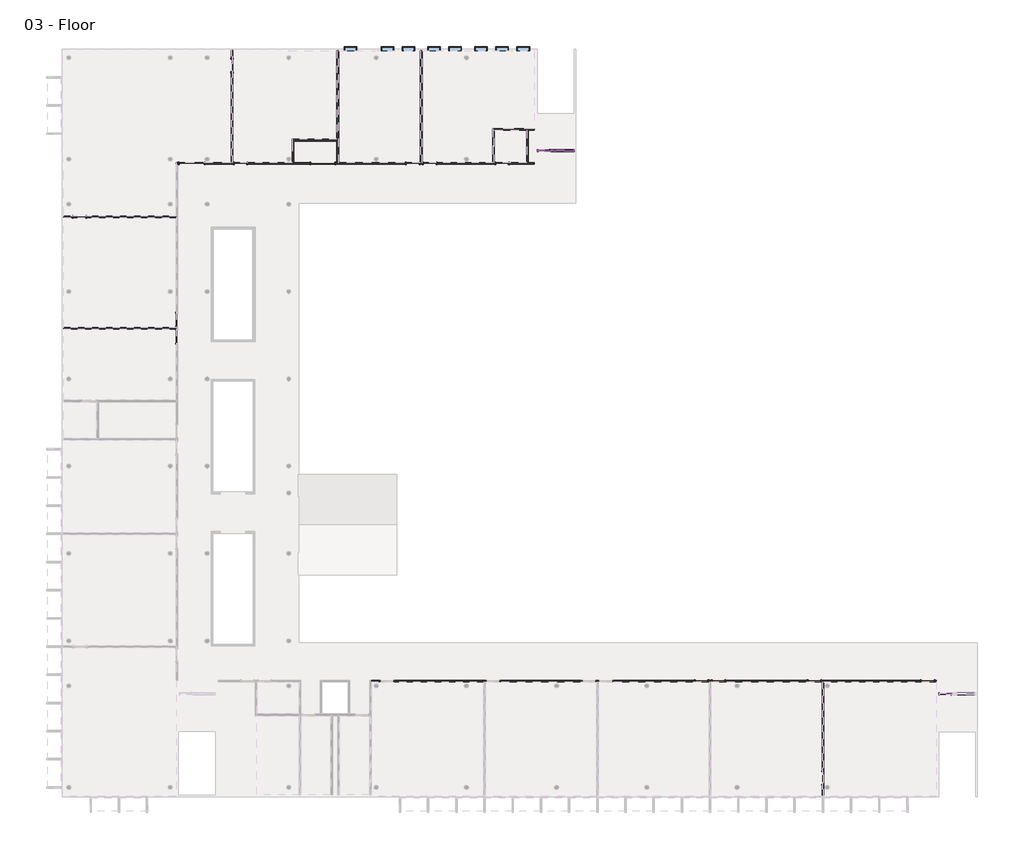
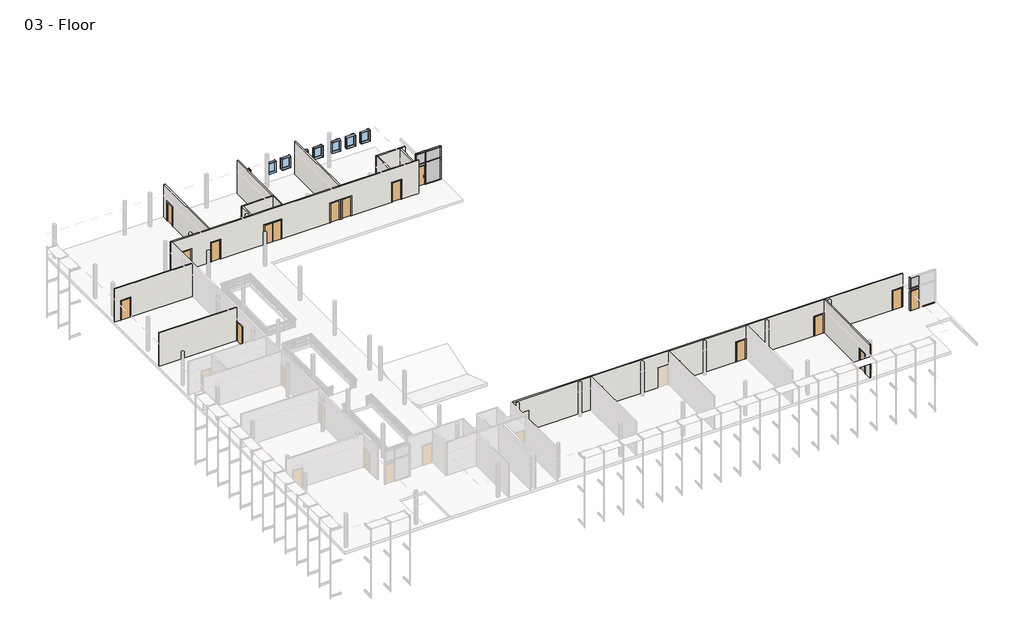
# One storey, part 2 of 4: 22 members, 17 doors, 13 walls, 8 windows, 6 plates.
"""IFC4 building model written with IfcOpenShell, lengths in millimetres."""

from ifc_helpers import new_model, si_unit, frame, origin, place, context, project, spatial, polyline, outline, extrude, faceted_brep, transform, mapped, element, save
from components import curtain_wall_sgl_glass_curtain_wall_sgl_glass_c2d4b377, curtain_wall_sgl_glass_curtain_wall_sgl_glass_ab2568d1, door_63ee19b0, door_3e29e47a, door_305aa2a5, door_e5f9f3c4, member_2b49869a, member_75074519, member_6186cc23, member_5d67b9fc, member_a50b3cda, member_c327c56d, member_410c6227, member_73c23c35, member_bcb6a316, member_d3323a85, member_7bd2cd2c, member_6be37683, member_e7b2e991, system_panel_glazed_8dc8626f, system_panel_glazed_bb2f95a6, system_panel_glazed_2e5f6ce9, system_panel_glazed_639f3d85, system_panel_glazed_72fe8651, system_panel_glazed_1925881f, window_dfee3f32

model = new_model("IFC4")

# Units and contexts
model_context = context("Model", 3, world=origin())
ifc_project = project(units=[si_unit("LENGTHUNIT", "METRE", prefix="MILLI")], contexts=[model_context])

# Site, building, storey
site = spatial("IfcSite", under=ifc_project)
building = spatial("IfcBuilding", under=site)
storey = spatial("IfcBuildingStorey", under=building, Name="03 - Floor", Elevation=7315.2)

# Doors
placement = place(None, origin())
curtain_wall_sgl_glass_curtain_wall_sgl_glass_shape = curtain_wall_sgl_glass_curtain_wall_sgl_glass_c2d4b377(model_context)
element("IfcDoor", 1, ObjectType="Curtain Wall Sgl Glass : Curtain Wall Sgl Glass", at=placement, inside=storey, context=model_context, shape_type="MappedRepresentation", body=[
    mapped(curtain_wall_sgl_glass_curtain_wall_sgl_glass_shape, transform((34925.9207476, 46523.2, 7315.2), x_axis=(-1.0, 0.0, 0.0), y_axis=(0.0, -1.0, 0.0), z_axis=(0.0, 0.0, 1.0))),
])
curtain_wall_sgl_glass_curtain_wall_sgl_glass_2_shape = curtain_wall_sgl_glass_curtain_wall_sgl_glass_ab2568d1(model_context)
element("IfcDoor", 2, ObjectType="Curtain Wall Sgl Glass : Curtain Wall Sgl Glass", at=placement, inside=storey, context=model_context, shape_type="MappedRepresentation", body=[
    mapped(curtain_wall_sgl_glass_curtain_wall_sgl_glass_2_shape, transform((63869.2207476, 7356.4, 7315.2), x_axis=(-1.0, 0.0, 0.0), y_axis=(0.0, -1.0, 0.0), z_axis=(0.0, 0.0, 1.0))),
])
door_shape = door_63ee19b0(model_context)
element("IfcDoor", 3, ObjectType="Double-Flush : 68\" x 84\"", at=placement, inside=storey, context=model_context, shape_type="MappedRepresentation", body=[
    mapped(door_shape, transform((18949.3207476, 45602.45, 7315.2), x_axis=(1.0, 0.0, 0.0), y_axis=(0.0, 1.0, 0.0), z_axis=(0.0, 0.0, 1.0))),
])
door_2_shape = door_3e29e47a(model_context)
element("IfcDoor", 4, ObjectType="Double-Flush : 72\" x 84\"", at=placement, inside=storey, context=model_context, shape_type="MappedRepresentation", body=[
    mapped(door_2_shape, transform((9487.8207476, 45602.45, 7315.2), x_axis=(1.0, 0.0, 0.0), y_axis=(0.0, 1.0, 0.0), z_axis=(0.0, 0.0, 1.0))),
])
door_3_shape = door_305aa2a5(model_context)
element("IfcDoor", 5, ObjectType="Single-Flush : 36\" x 84\"", at=placement, inside=storey, context=model_context, shape_type="MappedRepresentation", body=[
    mapped(door_3_shape, transform((31865.2207476, 45602.45, 7315.2), x_axis=(-1.0, 0.0, 0.0), y_axis=(0.0, -1.0, 0.0), z_axis=(0.0, 0.0, 1.0))),
])
element("IfcDoor", 6, ObjectType="Single-Flush : 36\" x 84\"", at=placement, inside=storey, context=model_context, shape_type="MappedRepresentation", body=[
    mapped(door_3_shape, transform((26645.5207476, 45602.45, 7315.2), x_axis=(-1.0, 0.0, 0.0), y_axis=(0.0, -1.0, 0.0), z_axis=(0.0, 0.0, 1.0))),
])
element("IfcDoor", 7, ObjectType="Single-Flush : 36\" x 84\"", at=placement, inside=storey, context=model_context, shape_type="MappedRepresentation", body=[
    mapped(door_3_shape, transform((13005.7207476, 45602.45, 7315.2), x_axis=(-1.0, 0.0, 0.0), y_axis=(0.0, -1.0, 0.0), z_axis=(0.0, 0.0, 1.0))),
])
element("IfcDoor", 8, ObjectType="Single-Flush : 36\" x 84\"", at=placement, inside=storey, context=model_context, shape_type="MappedRepresentation", body=[
    mapped(door_3_shape, transform((8414.6707476, 34331.2, 7315.2), x_axis=(0.0, -1.0, 0.0), y_axis=(1.0, 0.0, 0.0), z_axis=(0.0, 0.0, 1.0))),
])
element("IfcDoor", 9, ObjectType="Single-Flush : 36\" x 84\"", at=placement, inside=storey, context=model_context, shape_type="MappedRepresentation", body=[
    mapped(door_3_shape, transform((12396.1207476, 52657.3, 7315.2), x_axis=(0.0, 1.0, 0.0), y_axis=(-1.0, 0.0, 0.0), z_axis=(0.0, 0.0, 1.0))),
])
element("IfcDoor", 10, ObjectType="Single-Flush : 36\" x 84\"", at=placement, inside=storey, context=model_context, shape_type="MappedRepresentation", body=[
    mapped(door_3_shape, transform((46241.6207476, 8277.15, 7315.2), x_axis=(1.0, 0.0, 0.0), y_axis=(0.0, 1.0, 0.0), z_axis=(0.0, 0.0, 1.0))),
])
element("IfcDoor", 11, ObjectType="Single-Flush : 36\" x 84\"", at=placement, inside=storey, context=model_context, shape_type="MappedRepresentation", body=[
    mapped(door_3_shape, transform((54369.6207476, 8277.15, 7315.2), x_axis=(1.0, 0.0, 0.0), y_axis=(0.0, 1.0, 0.0), z_axis=(0.0, 0.0, 1.0))),
])
element("IfcDoor", 12, ObjectType="Single-Flush : 36\" x 84\"", at=placement, inside=storey, context=model_context, shape_type="MappedRepresentation", body=[
    mapped(door_3_shape, transform((62535.7207476, 8277.15, 7315.2), x_axis=(1.0, 0.0, 0.0), y_axis=(0.0, 1.0, 0.0), z_axis=(0.0, 0.0, 1.0))),
])
door_4_shape = door_e5f9f3c4(model_context)
element("IfcDoor", 13, ObjectType="Single-Flush : 36\" x 84\"", at=placement, inside=storey, context=model_context, shape_type="MappedRepresentation", body=[
    mapped(door_4_shape, transform((25426.3207476, 45602.45, 7315.2), x_axis=(1.0, 0.0, 0.0), y_axis=(0.0, 1.0, 0.0), z_axis=(0.0, 0.0, 1.0))),
])
element("IfcDoor", 14, ObjectType="Single-Flush : 36\" x 84\"", at=placement, inside=storey, context=model_context, shape_type="MappedRepresentation", body=[
    mapped(door_4_shape, transform((1397.9207476, 41748.0, 7315.2), x_axis=(-1.0, 0.0, 0.0), y_axis=(0.0, -1.0, 0.0), z_axis=(0.0, 0.0, 1.0))),
])
element("IfcDoor", 15, ObjectType="Single-Flush : 36\" x 84\"", at=placement, inside=storey, context=model_context, shape_type="MappedRepresentation", body=[
    mapped(door_4_shape, transform((8414.6707476, 33112.0, 7315.2), x_axis=(0.0, 1.0, 0.0), y_axis=(-1.0, 0.0, 0.0), z_axis=(0.0, 0.0, 1.0))),
])
element("IfcDoor", 16, ObjectType="Single-Flush : 36\" x 84\"", at=placement, inside=storey, context=model_context, shape_type="MappedRepresentation", body=[
    mapped(door_4_shape, transform((47460.8207476, 8277.15, 7315.2), x_axis=(-1.0, 0.0, 0.0), y_axis=(0.0, -1.0, 0.0), z_axis=(0.0, 0.0, 1.0))),
])
element("IfcDoor", 17, ObjectType="Single-Flush : 36\" x 84\"", at=placement, inside=storey, context=model_context, shape_type="MappedRepresentation", body=[
    mapped(door_4_shape, transform((54979.2207476, 1273.1, 7315.2), x_axis=(0.0, -1.0, 0.0), y_axis=(1.0, 0.0, 0.0), z_axis=(0.0, 0.0, 1.0))),
])

# Members
member_shape = member_2b49869a(model_context)
element("IfcMember", 18, ObjectType="Rectangular Mullion : 2.5\" x 5\" rectangular", at=placement, inside=storey, context=model_context, shape_type="MappedRepresentation", body=[
    mapped(member_shape, transform((35414.8707476, 46523.2, 9753.6), x_axis=(1.0, 0.0, 0.0), y_axis=(0.0, -1.0, 0.0), z_axis=(0.0, 0.0, -1.0))),
])
member_2_shape = member_75074519(model_context)
element("IfcMember", 19, ObjectType="Rectangular Mullion : 2.5\" x 5\" rectangular", at=placement, inside=storey, context=model_context, shape_type="MappedRepresentation", body=[
    mapped(member_2_shape, transform((34405.2207476, 46523.2, 10972.8), x_axis=(-1.0, 0.0, 0.0), y_axis=(0.0, -1.0, 0.0), z_axis=(0.0, 0.0, 1.0))),
])
element("IfcMember", 20, ObjectType="Rectangular Mullion : 2.5\" x 5\" rectangular", at=placement, inside=storey, context=model_context, shape_type="MappedRepresentation", body=[
    mapped(member_2_shape, transform((37046.8207476, 46523.2, 9753.6), x_axis=(1.0, 0.0, 0.0), y_axis=(0.0, -1.0, 0.0), z_axis=(0.0, 0.0, -1.0))),
])
element("IfcMember", 21, ObjectType="Rectangular Mullion : 2.5\" x 5\" rectangular", at=placement, inside=storey, context=model_context, shape_type="MappedRepresentation", body=[
    mapped(member_2_shape, transform((63348.5207476, 7356.4, 10972.8), x_axis=(-1.0, 0.0, 0.0), y_axis=(0.0, -1.0, 0.0), z_axis=(0.0, 0.0, 1.0))),
])
member_3_shape = member_6186cc23(model_context)
element("IfcMember", 22, ObjectType="Rectangular Mullion : 2.5\" x 5\" rectangular", at=placement, inside=storey, context=model_context, shape_type="MappedRepresentation", body=[
    mapped(member_3_shape, transform((35414.8707476, 46523.2, 7315.2), x_axis=(1.0, 0.0, 0.0), y_axis=(0.0, -1.0, 0.0), z_axis=(0.0, 0.0, -1.0))),
])
member_4_shape = member_5d67b9fc(model_context)
element("IfcMember", 23, ObjectType="Rectangular Mullion : 2.5\" x 5\" rectangular", at=placement, inside=storey, context=model_context, shape_type="MappedRepresentation", body=[
    mapped(member_4_shape, transform((35414.8707476, 46523.2, 9480.55), x_axis=(1.0, 0.0, 0.0), y_axis=(0.0, -1.0, 0.0), z_axis=(0.0, 0.0, -1.0))),
])
member_5_shape = member_a50b3cda(model_context)
element("IfcMember", 24, ObjectType="Rectangular Mullion : 2.5\" x 5\" rectangular", at=placement, inside=storey, context=model_context, shape_type="MappedRepresentation", body=[
    mapped(member_5_shape, transform((37046.8207476, 46523.2, 7315.2), x_axis=(1.0, 0.0, 0.0), y_axis=(0.0, -1.0, 0.0), z_axis=(0.0, 0.0, -1.0))),
])
member_6_shape = member_c327c56d(model_context)
element("IfcMember", 25, ObjectType="Rectangular Mullion : 2.5\" x 5\" rectangular", at=placement, inside=storey, context=model_context, shape_type="MappedRepresentation", body=[
    mapped(member_6_shape, transform((37046.8207476, 46523.2, 9480.55), x_axis=(1.0, 0.0, 0.0), y_axis=(0.0, -1.0, 0.0), z_axis=(0.0, 0.0, -1.0))),
])
member_7_shape = member_410c6227(model_context)
element("IfcMember", 26, ObjectType="Rectangular Mullion : 2.5\" x 5\" rectangular", at=placement, inside=storey, context=model_context, shape_type="MappedRepresentation", body=[
    mapped(member_7_shape, transform((35383.1207476, 46523.2, 9753.6), x_axis=(0.0, 0.0, 1.0), y_axis=(0.0, -1.0, 0.0), z_axis=(1.0, 0.0, 0.0))),
])
element("IfcMember", 27, ObjectType="Rectangular Mullion : 2.5\" x 5\" rectangular", at=placement, inside=storey, context=model_context, shape_type="MappedRepresentation", body=[
    mapped(member_7_shape, transform((35383.1207476, 46523.2, 9480.55), x_axis=(0.0, 0.0, 1.0), y_axis=(0.0, -1.0, 0.0), z_axis=(1.0, 0.0, 0.0))),
])
member_8_shape = member_73c23c35(model_context)
element("IfcMember", 28, ObjectType="Rectangular Mullion : 2.5\" x 5\" rectangular", at=placement, inside=storey, context=model_context, shape_type="MappedRepresentation", body=[
    mapped(member_8_shape, transform((35383.1207476, 46523.2, 10972.8), x_axis=(0.0, 0.0, 1.0), y_axis=(0.0, -1.0, 0.0), z_axis=(1.0, 0.0, 0.0))),
])
element("IfcMember", 29, ObjectType="Rectangular Mullion : 2.5\" x 5\" rectangular", at=placement, inside=storey, context=model_context, shape_type="MappedRepresentation", body=[
    mapped(member_6_shape, transform((34405.2207476, 46523.2, 9753.6), x_axis=(-1.0, 0.0, 0.0), y_axis=(0.0, -1.0, 0.0), z_axis=(0.0, 0.0, 1.0))),
])
element("IfcMember", 30, ObjectType="Rectangular Mullion : 2.5\" x 5\" rectangular", at=placement, inside=storey, context=model_context, shape_type="MappedRepresentation", body=[
    mapped(member_5_shape, transform((34405.2207476, 46523.2, 9480.55), x_axis=(-1.0, 0.0, 0.0), y_axis=(0.0, -1.0, 0.0), z_axis=(0.0, 0.0, 1.0))),
])
member_9_shape = member_bcb6a316(model_context)
element("IfcMember", 31, ObjectType="Rectangular Mullion : 2.5\" x 5\" rectangular", at=placement, inside=storey, context=model_context, shape_type="MappedRepresentation", body=[
    mapped(member_9_shape, transform((35726.0207476, 46523.2, 7315.2), x_axis=(0.0, 0.0, -1.0), y_axis=(0.0, -1.0, 0.0), z_axis=(-1.0, 0.0, 0.0))),
])
member_10_shape = member_d3323a85(model_context)
element("IfcMember", 32, ObjectType="Rectangular Mullion : 2.5\" x 5\" rectangular", at=placement, inside=storey, context=model_context, shape_type="MappedRepresentation", body=[
    mapped(member_10_shape, transform((35446.6207476, 46523.2, 7315.2), x_axis=(0.0, 0.0, -1.0), y_axis=(0.0, -1.0, 0.0), z_axis=(-1.0, 0.0, 0.0))),
])
element("IfcMember", 33, ObjectType="Rectangular Mullion : 2.5\" x 5\" rectangular", at=placement, inside=storey, context=model_context, shape_type="MappedRepresentation", body=[
    mapped(member_9_shape, transform((36983.3207476, 46523.2, 10972.8), x_axis=(0.0, 0.0, 1.0), y_axis=(0.0, -1.0, 0.0), z_axis=(1.0, 0.0, 0.0))),
])
element("IfcMember", 34, ObjectType="Rectangular Mullion : 2.5\" x 5\" rectangular", at=placement, inside=storey, context=model_context, shape_type="MappedRepresentation", body=[
    mapped(member_10_shape, transform((35726.0207476, 46523.2, 10972.8), x_axis=(0.0, 0.0, 1.0), y_axis=(0.0, -1.0, 0.0), z_axis=(1.0, 0.0, 0.0))),
])
member_11_shape = member_7bd2cd2c(model_context)
element("IfcMember", 35, ObjectType="Rectangular Mullion : 2.5\" x 5\" rectangular", at=placement, inside=storey, context=model_context, shape_type="MappedRepresentation", body=[
    mapped(member_11_shape, transform((36983.3207476, 46523.2, 9753.6), x_axis=(0.0, 0.0, 1.0), y_axis=(0.0, -1.0, 0.0), z_axis=(1.0, 0.0, 0.0))),
])
member_12_shape = member_6be37683(model_context)
element("IfcMember", 36, ObjectType="Rectangular Mullion : 2.5\" x 5\" rectangular", at=placement, inside=storey, context=model_context, shape_type="MappedRepresentation", body=[
    mapped(member_12_shape, transform((35726.0207476, 46523.2, 9753.6), x_axis=(0.0, 0.0, 1.0), y_axis=(0.0, -1.0, 0.0), z_axis=(1.0, 0.0, 0.0))),
])
element("IfcMember", 37, ObjectType="Rectangular Mullion : 2.5\" x 5\" rectangular", at=placement, inside=storey, context=model_context, shape_type="MappedRepresentation", body=[
    mapped(member_6_shape, transform((63348.5207476, 7356.4, 9753.6), x_axis=(-1.0, 0.0, 0.0), y_axis=(0.0, -1.0, 0.0), z_axis=(0.0, 0.0, 1.0))),
])
element("IfcMember", 38, ObjectType="Rectangular Mullion : 2.5\" x 5\" rectangular", at=placement, inside=storey, context=model_context, shape_type="MappedRepresentation", body=[
    mapped(member_5_shape, transform((63348.5207476, 7356.4, 9480.55), x_axis=(-1.0, 0.0, 0.0), y_axis=(0.0, -1.0, 0.0), z_axis=(0.0, 0.0, 1.0))),
])
member_13_shape = member_e7b2e991(model_context)
element("IfcMember", 39, ObjectType="Rectangular Mullion : 2.5\" x 5\" rectangular", at=placement, inside=storey, context=model_context, shape_type="MappedRepresentation", body=[
    mapped(member_13_shape, transform((64675.6707476, 7356.4, 7315.2), x_axis=(0.0, 0.0, -1.0), y_axis=(0.0, -1.0, 0.0), z_axis=(-1.0, 0.0, 0.0))),
])

# Plates
system_panel_glazed_shape = system_panel_glazed_8dc8626f(model_context)
element("IfcPlate", 40, ObjectType="System Panel : Glazed", at=placement, inside=storey, context=model_context, shape_type="MappedRepresentation", body=[
    mapped(system_panel_glazed_shape, transform((34925.9207476, 46523.2, 9512.3), x_axis=(1.0, 0.0, 0.0), y_axis=(0.0, 1.0, 0.0), z_axis=(0.0, 0.0, 1.0))),
])
system_panel_glazed_2_shape = system_panel_glazed_bb2f95a6(model_context)
element("IfcPlate", 41, ObjectType="System Panel : Glazed", at=placement, inside=storey, context=model_context, shape_type="MappedRepresentation", body=[
    mapped(system_panel_glazed_2_shape, transform((36214.9707476, 46523.2, 7378.7), x_axis=(1.0, 0.0, 0.0), y_axis=(0.0, 1.0, 0.0), z_axis=(0.0, 0.0, 1.0))),
])
system_panel_glazed_3_shape = system_panel_glazed_2e5f6ce9(model_context)
element("IfcPlate", 42, ObjectType="System Panel : Glazed", at=placement, inside=storey, context=model_context, shape_type="MappedRepresentation", body=[
    mapped(system_panel_glazed_3_shape, transform((34925.9207476, 46523.2, 9785.35), x_axis=(1.0, 0.0, 0.0), y_axis=(0.0, 1.0, 0.0), z_axis=(0.0, 0.0, 1.0))),
])
system_panel_glazed_4_shape = system_panel_glazed_639f3d85(model_context)
element("IfcPlate", 43, ObjectType="System Panel : Glazed", at=placement, inside=storey, context=model_context, shape_type="MappedRepresentation", body=[
    mapped(system_panel_glazed_4_shape, transform((36214.9707476, 46523.2, 9785.35), x_axis=(1.0, 0.0, 0.0), y_axis=(0.0, 1.0, 0.0), z_axis=(0.0, 0.0, 1.0))),
])
system_panel_glazed_5_shape = system_panel_glazed_72fe8651(model_context)
element("IfcPlate", 44, ObjectType="System Panel : Glazed", at=placement, inside=storey, context=model_context, shape_type="MappedRepresentation", body=[
    mapped(system_panel_glazed_5_shape, transform((63869.2207476, 7356.4, 9512.3), x_axis=(1.0, 0.0, 0.0), y_axis=(0.0, 1.0, 0.0), z_axis=(0.0, 0.0, 1.0))),
])
system_panel_glazed_6_shape = system_panel_glazed_1925881f(model_context)
element("IfcPlate", 45, ObjectType="System Panel : Glazed", at=placement, inside=storey, context=model_context, shape_type="MappedRepresentation", body=[
    mapped(system_panel_glazed_6_shape, transform((63869.2207476, 7356.4, 9785.35), x_axis=(1.0, 0.0, 0.0), y_axis=(0.0, 1.0, 0.0), z_axis=(0.0, 0.0, 1.0))),
])

# Walls
element("IfcWall", 46, ObjectType="Typ. Partition Wall", at=placement, inside=storey, context=model_context, shape_type="Brep", body=[
    faceted_brep([(8357.5207476, 45659.6, 10972.8), (12338.9707476, 45659.6, 10972.8), (12453.2707476, 45659.6, 10972.8), (16720.4707476, 45659.6, 10972.8), (16834.7707476, 45659.6, 10972.8), (19958.9707476, 45659.6, 10972.8), (20073.2707476, 45659.6, 10972.8), (25978.7707476, 45659.6, 10972.8), (26093.0707476, 45659.6, 10972.8), (31198.4707476, 45659.6, 10972.8), (31312.7707476, 45659.6, 10972.8), (33636.8707476, 45659.6, 10972.8), (33751.1707476, 45659.6, 10972.8), (34194.0832476, 45659.6, 10972.8), (34194.0832476, 45659.6, 7315.2), (33751.1707476, 45659.6, 7315.2), (33636.8707476, 45659.6, 7315.2), (32322.4207476, 45659.6, 7315.2), (32322.4207476, 45659.6, 9448.8), (31408.0207476, 45659.6, 9448.8), (31408.0207476, 45659.6, 7315.2), (31312.7707476, 45659.6, 7315.2), (31198.4707476, 45659.6, 7315.2), (27102.7207476, 45659.6, 7315.2), (27102.7207476, 45659.6, 9448.8), (26188.3207476, 45659.6, 9448.8), (26188.3207476, 45659.6, 7315.2), (26093.0707476, 45659.6, 7315.2), (25978.7707476, 45659.6, 7315.2), (25883.5207476, 45659.6, 7315.2), (25883.5207476, 45659.6, 9448.8), (24969.1207476, 45659.6, 9448.8), (24969.1207476, 45659.6, 7315.2), (20073.2707476, 45659.6, 7315.2), (19958.9707476, 45659.6, 7315.2), (19812.9207476, 45659.6, 7315.2), (19812.9207476, 45659.6, 9448.8), (18085.7207476, 45659.6, 9448.8), (18085.7207476, 45659.6, 7315.2), (16834.7707476, 45659.6, 7315.2), (16720.4707476, 45659.6, 7315.2), (13462.9207476, 45659.6, 7315.2), (13462.9207476, 45659.6, 9448.8), (12548.5207476, 45659.6, 9448.8), (12548.5207476, 45659.6, 7315.2), (12453.2707476, 45659.6, 7315.2), (12338.9707476, 45659.6, 7315.2), (10402.2207476, 45659.6, 7315.2), (10402.2207476, 45659.6, 9448.8), (8573.4207476, 45659.6, 9448.8), (8573.4207476, 45659.6, 7315.2), (8357.5207476, 45659.6, 7315.2), (34194.0832476, 45545.3, 10972.8), (8471.8207476, 45545.3, 10972.8), (8357.5207476, 45545.3, 10972.8), (8357.5207476, 45545.3, 7315.2), (8471.8207476, 45545.3, 7315.2), (8573.4207476, 45545.3, 7315.2), (8573.4207476, 45545.3, 9448.8), (10402.2207476, 45545.3, 9448.8), (10402.2207476, 45545.3, 7315.2), (12548.5207476, 45545.3, 7315.2), (12548.5207476, 45545.3, 9448.8), (13462.9207476, 45545.3, 9448.8), (13462.9207476, 45545.3, 7315.2), (18085.7207476, 45545.3, 7315.2), (18085.7207476, 45545.3, 9448.8), (19812.9207476, 45545.3, 9448.8), (19812.9207476, 45545.3, 7315.2), (24969.1207476, 45545.3, 7315.2), (24969.1207476, 45545.3, 9448.8), (25883.5207476, 45545.3, 9448.8), (25883.5207476, 45545.3, 7315.2), (26188.3207476, 45545.3, 7315.2), (26188.3207476, 45545.3, 9448.8), (27102.7207476, 45545.3, 9448.8), (27102.7207476, 45545.3, 7315.2), (31408.0207476, 45545.3, 7315.2), (31408.0207476, 45545.3, 9448.8), (32322.4207476, 45545.3, 9448.8), (32322.4207476, 45545.3, 7315.2), (34194.0832476, 45545.3, 7315.2)], [[[0, 1, 2, 3, 4, 5, 6, 7, 8, 9, 10, 11, 12, 13, 14, 15, 16, 17, 18, 19, 20, 21, 22, 23, 24, 25, 26, 27, 28, 29, 30, 31, 32, 33, 34, 35, 36, 37, 38, 39, 40, 41, 42, 43, 44, 45, 46, 47, 48, 49, 50, 51]], [[52, 53, 54, 55, 56, 57, 58, 59, 60, 61, 62, 63, 64, 65, 66, 67, 68, 69, 70, 71, 72, 73, 74, 75, 76, 77, 78, 79, 80, 81]], [[14, 81, 80, 17, 16, 15]], [[55, 51, 50, 57, 56]], [[20, 77, 76, 23, 22, 21]], [[26, 73, 72, 29, 28, 27]], [[32, 69, 68, 35, 34, 33]], [[44, 61, 60, 47, 46, 45]], [[64, 41, 40, 39, 38, 65]], [[13, 12, 11, 10, 9, 8, 7, 6, 5, 4, 3, 2, 1, 0, 54, 53, 52]], [[14, 13, 52, 81]], [[0, 51, 55, 54]], [[78, 77, 20, 19]], [[79, 78, 19, 18]], [[80, 79, 18, 17]], [[74, 73, 26, 25]], [[75, 74, 25, 24]], [[76, 75, 24, 23]], [[30, 29, 72, 71]], [[31, 30, 71, 70]], [[32, 31, 70, 69]], [[62, 61, 44, 43]], [[63, 62, 43, 42]], [[64, 63, 42, 41]], [[67, 36, 35, 68]], [[36, 67, 66, 37]], [[37, 66, 65, 38]], [[59, 48, 47, 60]], [[48, 59, 58, 49]], [[49, 58, 57, 50]]]),
])
element("IfcWall", 47, ObjectType="Typ. Partition Wall", at=placement, inside=storey, context=model_context, shape_type="Brep", body=[
    faceted_brep([(62992.9207476, 8220.0, 9448.8), (62992.9207476, 8220.0, 7315.2), (63137.3832476, 8220.0, 7315.2), (63137.3832476, 8220.0, 10972.8), (55036.3707476, 8220.0, 10972.8), (54922.0707476, 8220.0, 10972.8), (46908.3707476, 8220.0, 10972.8), (46794.0707476, 8220.0, 10972.8), (38780.3707476, 8220.0, 10972.8), (38666.0707476, 8220.0, 10972.8), (30652.3707476, 8220.0, 10972.8), (30538.0707476, 8220.0, 10972.8), (22422.7707476, 8220.0, 10972.8), (22422.7707476, 8220.0, 7315.2), (23114.9207476, 8220.0, 7315.2), (23114.9207476, 8220.0, 9448.8), (24029.3207476, 8220.0, 9448.8), (24029.3207476, 8220.0, 7315.2), (30538.0707476, 8220.0, 7315.2), (30652.3707476, 8220.0, 7315.2), (30747.6207476, 8220.0, 7315.2), (30747.6207476, 8220.0, 9448.8), (31662.0207476, 8220.0, 9448.8), (31662.0207476, 8220.0, 7315.2), (37656.4207476, 8220.0, 7315.2), (37656.4207476, 8220.0, 9448.8), (38570.8207476, 8220.0, 9448.8), (38570.8207476, 8220.0, 7315.2), (38666.0707476, 8220.0, 7315.2), (38780.3707476, 8220.0, 7315.2), (38875.6207476, 8220.0, 7315.2), (38875.6207476, 8220.0, 9448.8), (39790.0207476, 8220.0, 9448.8), (39790.0207476, 8220.0, 7315.2), (45784.4207476, 8220.0, 7315.2), (45784.4207476, 8220.0, 9448.8), (46698.8207476, 8220.0, 9448.8), (46698.8207476, 8220.0, 7315.2), (46794.0707476, 8220.0, 7315.2), (46908.3707476, 8220.0, 7315.2), (47003.6207476, 8220.0, 7315.2), (47003.6207476, 8220.0, 9448.8), (47918.0207476, 8220.0, 9448.8), (47918.0207476, 8220.0, 7315.2), (53912.4207476, 8220.0, 7315.2), (53912.4207476, 8220.0, 9448.8), (54826.8207476, 8220.0, 9448.8), (54826.8207476, 8220.0, 7315.2), (54922.0707476, 8220.0, 7315.2), (55036.3707476, 8220.0, 7315.2), (62078.5207476, 8220.0, 7315.2), (62078.5207476, 8220.0, 9448.8), (63137.3832476, 8334.3, 7315.2), (62992.9207476, 8334.3, 7315.2), (62992.9207476, 8334.3, 9448.8), (62078.5207476, 8334.3, 9448.8), (62078.5207476, 8334.3, 7315.2), (54826.8207476, 8334.3, 7315.2), (54826.8207476, 8334.3, 9448.8), (53912.4207476, 8334.3, 9448.8), (53912.4207476, 8334.3, 7315.2), (47918.0207476, 8334.3, 7315.2), (47918.0207476, 8334.3, 9448.8), (47003.6207476, 8334.3, 9448.8), (47003.6207476, 8334.3, 7315.2), (46698.8207476, 8334.3, 7315.2), (46698.8207476, 8334.3, 9448.8), (45784.4207476, 8334.3, 9448.8), (45784.4207476, 8334.3, 7315.2), (39790.0207476, 8334.3, 7315.2), (39790.0207476, 8334.3, 9448.8), (38875.6207476, 8334.3, 9448.8), (38875.6207476, 8334.3, 7315.2), (38570.8207476, 8334.3, 7315.2), (38570.8207476, 8334.3, 9448.8), (37656.4207476, 8334.3, 9448.8), (37656.4207476, 8334.3, 7315.2), (31662.0207476, 8334.3, 7315.2), (31662.0207476, 8334.3, 9448.8), (30747.6207476, 8334.3, 9448.8), (30747.6207476, 8334.3, 7315.2), (24029.3207476, 8334.3, 7315.2), (24029.3207476, 8334.3, 9448.8), (23114.9207476, 8334.3, 9448.8), (23114.9207476, 8334.3, 7315.2), (22422.7707476, 8334.3, 7315.2), (22422.7707476, 8334.3, 10972.8), (63137.3832476, 8334.3, 10972.8)], [[[0, 1, 2, 3, 4, 5, 6, 7, 8, 9, 10, 11, 12, 13, 14, 15, 16, 17, 18, 19, 20, 21, 22, 23, 24, 25, 26, 27, 28, 29, 30, 31, 32, 33, 34, 35, 36, 37, 38, 39, 40, 41, 42, 43, 44, 45, 46, 47, 48, 49, 50, 51]], [[52, 53, 54, 55, 56, 57, 58, 59, 60, 61, 62, 63, 64, 65, 66, 67, 68, 69, 70, 71, 72, 73, 74, 75, 76, 77, 78, 79, 80, 81, 82, 83, 84, 85, 86, 87]], [[85, 84, 14, 13]], [[73, 72, 30, 29, 28, 27]], [[81, 80, 20, 19, 18, 17]], [[77, 76, 24, 23]], [[65, 64, 40, 39, 38, 37]], [[34, 33, 69, 68]], [[2, 1, 53, 52]], [[44, 43, 61, 60]], [[50, 49, 48, 47, 57, 56]], [[12, 11, 10, 9, 8, 7, 6, 5, 4, 3, 87, 86]], [[3, 2, 52, 87]], [[13, 12, 86, 85]], [[15, 14, 84, 83]], [[16, 15, 83, 82]], [[17, 16, 82, 81]], [[74, 73, 27, 26]], [[75, 74, 26, 25]], [[76, 75, 25, 24]], [[21, 20, 80, 79]], [[22, 21, 79, 78]], [[23, 22, 78, 77]], [[31, 30, 72, 71]], [[32, 31, 71, 70]], [[33, 32, 70, 69]], [[66, 65, 37, 36]], [[67, 66, 36, 35]], [[68, 67, 35, 34]], [[41, 40, 64, 63]], [[42, 41, 63, 62]], [[43, 42, 62, 61]], [[58, 57, 47, 46]], [[59, 58, 46, 45]], [[60, 59, 45, 44]], [[54, 53, 1, 0]], [[55, 54, 0, 51]], [[56, 55, 51, 50]]]),
])
element("IfcWall", 48, ObjectType="Typ. Partition Wall", at=placement, inside=storey, context=model_context, shape_type="SweptSolid", body=[
    extrude(outline(polyline([(7315.2, 280.3207476), (7315.2, 940.7207476), (9448.8, 940.7207476), (9448.8, 1855.1207476), (7315.2, 1855.1207476), (7315.2, 8357.5207476), (10972.8, 8357.5207476), (10972.8, 280.3207476), (7315.2, 280.3207476)])), frame((0.0, 41690.85, 0.0), z_axis=(0.0, 1.0, 0.0), x_axis=(0.0, 0.0, 1.0)), (0.0, 0.0, 1.0), 114.3),
])
element("IfcWall", 49, ObjectType="Typ. Partition Wall", at=placement, inside=storey, context=model_context, shape_type="SweptSolid", body=[
    extrude(outline(polyline([(8357.5207476, 33664.45), (280.3207476, 33664.45), (280.3207476, 33778.75), (8357.5207476, 33778.75), (8357.5207476, 33664.45)])), frame((0.0, 0.0, 7315.2), z_axis=(0.0, 0.0, 1.0), x_axis=(1.0, 0.0, 0.0)), (0.0, 0.0, 1.0), 3657.6),
])
element("IfcWall", 50, ObjectType="Typ. Partition Wall", at=placement, inside=storey, context=model_context, shape_type="SweptSolid", body=[
    extrude(outline(polyline([(25978.7707476, 45659.6), (25978.7707476, 53724.1), (26093.0707476, 53724.1), (26093.0707476, 45659.6), (25978.7707476, 45659.6)])), frame((0.0, 0.0, 7315.2), z_axis=(0.0, 0.0, 1.0), x_axis=(1.0, 0.0, 0.0)), (0.0, 0.0, 1.0), 3657.6),
])
element("IfcWall", 51, ObjectType="Typ. Partition Wall", at=placement, inside=storey, context=model_context, shape_type="Brep", body=[
    faceted_brep([(19958.9707476, 53724.1, 7315.2), (19958.9707476, 47338.3500002, 7315.2), (19958.9707476, 47224.0500002, 7315.2), (19958.9707476, 45659.6, 7315.2), (19958.9707476, 45659.6, 10972.8), (19958.9707476, 47224.0500002, 10972.8), (19958.9707476, 47338.3500002, 10972.8), (19958.9707476, 53724.1, 10972.8), (20073.2707476, 53724.1, 7315.2), (20073.2707476, 53724.1, 10972.8), (20073.2707476, 45659.6, 10972.8), (20073.2707476, 45659.6, 7315.2)], [[[0, 1, 2, 3, 4, 5, 6, 7]], [[8, 9, 10, 11]], [[3, 2, 1, 0, 8, 11]], [[0, 7, 9, 8]], [[4, 3, 11, 10]], [[7, 6, 5, 4, 10, 9]]]),
])
element("IfcWall", 52, ObjectType="Typ. Partition Wall", at=placement, inside=storey, context=model_context, shape_type="SweptSolid", body=[
    extrude(outline(polyline([(53762.2, 7315.2), (53114.5, 7315.2), (53114.5, 9448.8), (52200.1, 9448.8), (52200.1, 7315.2), (45659.6, 7315.2), (45659.6, 10972.8), (53724.1, 10972.8), (53762.2, 10972.8), (53762.2, 7315.2)])), frame((12338.9707476, 0.0, 0.0), z_axis=(1.0, 0.0, 0.0), x_axis=(0.0, 1.0, 0.0)), (0.0, 0.0, 1.0), 114.3),
])
element("IfcWall", 53, ObjectType="Typ. Partition Wall", at=placement, inside=storey, context=model_context, shape_type="SweptSolid", body=[
    extrude(outline(polyline([(815.9, 9448.8), (815.9, 7315.2), (15.8, 7315.2), (15.8, 10972.8), (53.9, 10972.8), (8220.0, 10972.8), (8220.0, 7315.2), (1730.3, 7315.2), (1730.3, 9448.8), (815.9, 9448.8)])), frame((54922.0707476, 0.0, 0.0), z_axis=(1.0, 0.0, 0.0), x_axis=(0.0, 1.0, 0.0)), (0.0, 0.0, 1.0), 114.3),
])
element("IfcWall", 54, ObjectType="Typ. Partition Wall", at=placement, inside=storey, context=model_context, shape_type="Brep", body=[
    faceted_brep([(19958.9707476, 47338.3500002, 7315.2), (16720.4707476, 47338.3500002, 7315.2), (16720.4707476, 47338.3500002, 10972.8), (19958.9707476, 47338.3500002, 10972.8), (19958.9707476, 47224.0500002, 7315.2), (19958.9707476, 47224.0500002, 10972.8), (16834.7707476, 47224.0500002, 10972.8), (16720.4707476, 47224.0500002, 10972.8), (16720.4707476, 47224.0500002, 7315.2), (16834.7707476, 47224.0500002, 7315.2)], [[[0, 1, 2, 3]], [[4, 5, 6, 7, 8, 9]], [[1, 0, 4, 9, 8]], [[3, 2, 7, 6, 5]], [[2, 1, 8, 7]], [[0, 3, 5, 4]]]),
])
element("IfcWall", 55, ObjectType="Typ. Partition Wall", at=placement, inside=storey, context=model_context, shape_type="SweptSolid", body=[
    extrude(outline(polyline([(16720.4707476, 45659.6), (16720.4707476, 47224.0500002), (16834.7707476, 47224.0500002), (16834.7707476, 45659.6), (16720.4707476, 45659.6)])), frame((0.0, 0.0, 7315.2), z_axis=(0.0, 0.0, 1.0), x_axis=(1.0, 0.0, 0.0)), (0.0, 0.0, 1.0), 3657.6),
])
element("IfcWall", 56, ObjectType="Typ. Partition Wall", at=placement, inside=storey, context=model_context, shape_type="Brep", body=[
    faceted_brep([(34194.0832476, 48104.35, 7315.2), (31198.4707476, 48104.35, 7315.2), (31198.4707476, 48104.35, 10972.8), (34194.0832476, 48104.35, 10972.8), (34194.0832476, 47990.05, 7315.2), (34194.0832476, 47990.05, 10972.8), (33751.1707476, 47990.05, 10972.8), (33636.8707476, 47990.05, 10972.8), (31312.7707476, 47990.05, 10972.8), (31198.4707476, 47990.05, 10972.8), (31198.4707476, 47990.05, 7315.2), (31312.7707476, 47990.05, 7315.2), (33636.8707476, 47990.05, 7315.2), (33751.1707476, 47990.05, 7315.2)], [[[0, 1, 2, 3]], [[4, 5, 6, 7, 8, 9, 10, 11, 12, 13]], [[1, 0, 4, 13, 12, 11, 10]], [[3, 2, 9, 8, 7, 6, 5]], [[2, 1, 10, 9]], [[0, 3, 5, 4]]]),
])
element("IfcWall", 57, ObjectType="Typ. Partition Wall", at=placement, inside=storey, context=model_context, shape_type="SweptSolid", body=[
    extrude(outline(polyline([(31198.4707476, 45659.6), (31198.4707476, 47990.05), (31312.7707476, 47990.05), (31312.7707476, 45659.6), (31198.4707476, 45659.6)])), frame((0.0, 0.0, 7315.2), z_axis=(0.0, 0.0, 1.0), x_axis=(1.0, 0.0, 0.0)), (0.0, 0.0, 1.0), 3657.6),
])
element("IfcWall", 58, ObjectType="Typ. Partition Wall", at=placement, inside=storey, context=model_context, shape_type="SweptSolid", body=[
    extrude(outline(polyline([(33636.8707476, 45659.6), (33636.8707476, 47990.05), (33751.1707476, 47990.05), (33751.1707476, 45659.6), (33636.8707476, 45659.6)])), frame((0.0, 0.0, 7315.2), z_axis=(0.0, 0.0, 1.0), x_axis=(1.0, 0.0, 0.0)), (0.0, 0.0, 1.0), 3657.6),
])

# Windows
window_shape = window_dfee3f32(model_context)
element("IfcWindow", 59, ObjectType="Fixed : 36\" x 48\"", at=placement, inside=storey, context=model_context, shape_type="MappedRepresentation", body=[
    mapped(window_shape, transform((20968.6207476, 53878.0875, 7315.2), x_axis=(1.0, 0.0, 0.0), y_axis=(0.0, 1.0, 0.0), z_axis=(0.0, 0.0, 1.0))),
])
element("IfcWindow", 60, ObjectType="Fixed : 36\" x 48\"", at=placement, inside=storey, context=model_context, shape_type="MappedRepresentation", body=[
    mapped(window_shape, transform((25159.6207476, 53878.0875, 7315.2), x_axis=(1.0, 0.0, 0.0), y_axis=(0.0, 1.0, 0.0), z_axis=(0.0, 0.0, 1.0))),
])
element("IfcWindow", 61, ObjectType="Fixed : 36\" x 48\"", at=placement, inside=storey, context=model_context, shape_type="MappedRepresentation", body=[
    mapped(window_shape, transform((23635.6207476, 53878.0875, 7315.2), x_axis=(1.0, 0.0, 0.0), y_axis=(0.0, 1.0, 0.0), z_axis=(0.0, 0.0, 1.0))),
])
element("IfcWindow", 62, ObjectType="Fixed : 36\" x 48\"", at=placement, inside=storey, context=model_context, shape_type="MappedRepresentation", body=[
    mapped(window_shape, transform((26988.4207476, 53878.0875, 7315.2), x_axis=(1.0, 0.0, 0.0), y_axis=(0.0, 1.0, 0.0), z_axis=(0.0, 0.0, 1.0))),
])
element("IfcWindow", 63, ObjectType="Fixed : 36\" x 48\"", at=placement, inside=storey, context=model_context, shape_type="MappedRepresentation", body=[
    mapped(window_shape, transform((28512.4207476, 53878.0875, 7315.2), x_axis=(1.0, 0.0, 0.0), y_axis=(0.0, 1.0, 0.0), z_axis=(0.0, 0.0, 1.0))),
])
element("IfcWindow", 64, ObjectType="Fixed : 36\" x 48\"", at=placement, inside=storey, context=model_context, shape_type="MappedRepresentation", body=[
    mapped(window_shape, transform((33427.3207476, 53878.0875, 7315.2), x_axis=(1.0, 0.0, 0.0), y_axis=(0.0, 1.0, 0.0), z_axis=(0.0, 0.0, 1.0))),
])
element("IfcWindow", 65, ObjectType="Fixed : 36\" x 48\"", at=placement, inside=storey, context=model_context, shape_type="MappedRepresentation", body=[
    mapped(window_shape, transform((31903.3207476, 53878.0875, 7315.2), x_axis=(1.0, 0.0, 0.0), y_axis=(0.0, 1.0, 0.0), z_axis=(0.0, 0.0, 1.0))),
])
element("IfcWindow", 66, ObjectType="Fixed : 36\" x 48\"", at=placement, inside=storey, context=model_context, shape_type="MappedRepresentation", body=[
    mapped(window_shape, transform((30379.3207476, 53878.0875, 7315.2), x_axis=(1.0, 0.0, 0.0), y_axis=(0.0, 1.0, 0.0), z_axis=(0.0, 0.0, 1.0))),
])

save(model, "model.ifc")
